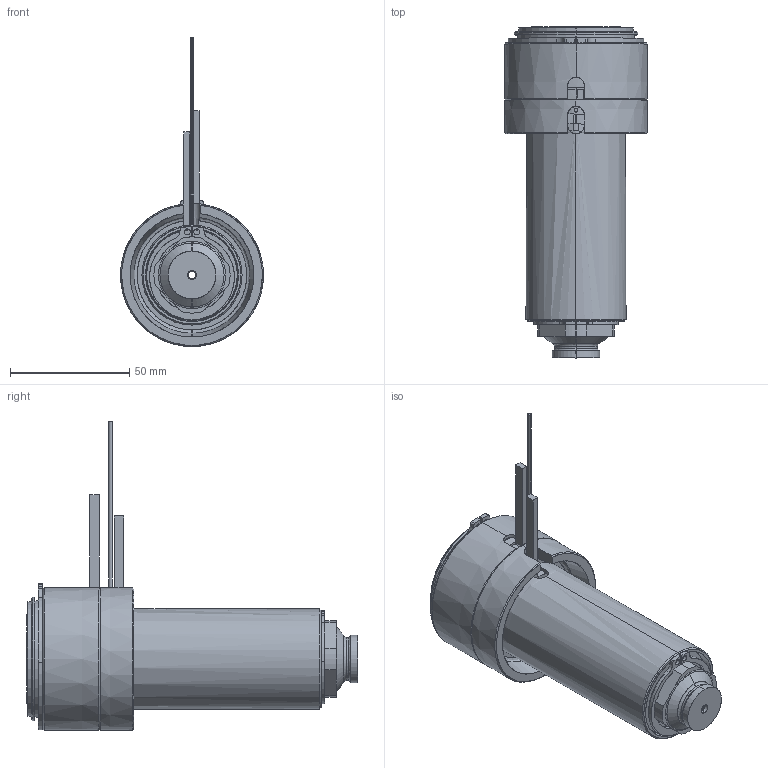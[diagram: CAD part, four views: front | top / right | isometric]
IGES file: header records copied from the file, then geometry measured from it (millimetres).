
Start section: SolidWorks IGES file using analytic representation for surfaces
Global section: file name: C:\Documents and Settings\ws-20\Desktop\TEM\UGER6604-M-A-1 [Øb-3.3 P-0 ØC-17].IGS; native system: SolidWorks 2012; preprocessor: SolidWorks 2012; author: ws-20; date: 120417.135227; units: millimetre
Bounding box: 60 x 139.25 x 129.65 mm (x, y, z)
Surface area: 79959.7 mm2 (no closed solid volume)
Topology: 0 solids, 0 shells, 168 faces, 3084 edges, 3084 vertices
Faces by surface type: revolution 100, bspline 68
